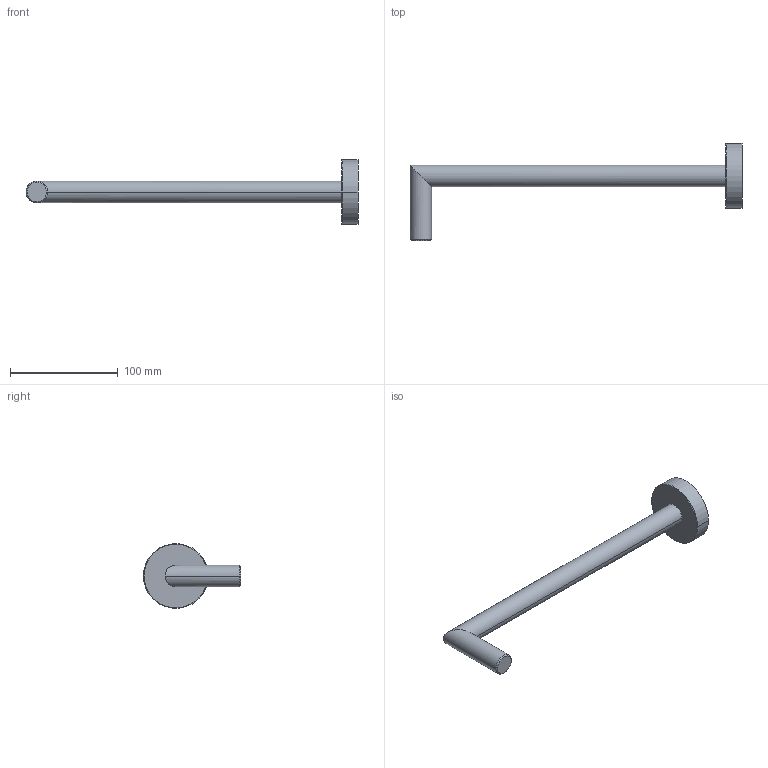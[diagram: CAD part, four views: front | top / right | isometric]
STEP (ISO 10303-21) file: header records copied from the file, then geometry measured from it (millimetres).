
FILE_DESCRIPTION((''),'2;1');
FILE_NAME('90931_SW0001','2021-06-30T15:29:24',('carloff'),(''),'CREO PARAMETRIC BY PTC INC, 2018100','CREO PARAMETRIC BY PTC INC, 2018100','');
FILE_SCHEMA(('CONFIG_CONTROL_DESIGN'));
Length unit declared in the file: millimetre
Products named in the file (1): 90931_SW0001
Bounding box: 308 x 90 x 60 mm (x, y, z)
Volume: 150127.7 mm3; surface area: 29955 mm2
Topology: 1 solids, 1 shells, 13 faces, 26 edges, 16 vertices
Faces by surface type: cylinder 6, plane 3, cone 2, torus 2
Entity records: 424 total; most frequent: CARTESIAN_POINT 107, DIRECTION 62, ORIENTED_EDGE 52, AXIS2_PLACEMENT_3D 27, EDGE_CURVE 26, VERTEX_POINT 16, EDGE_LOOP 14, CIRCLE 14
